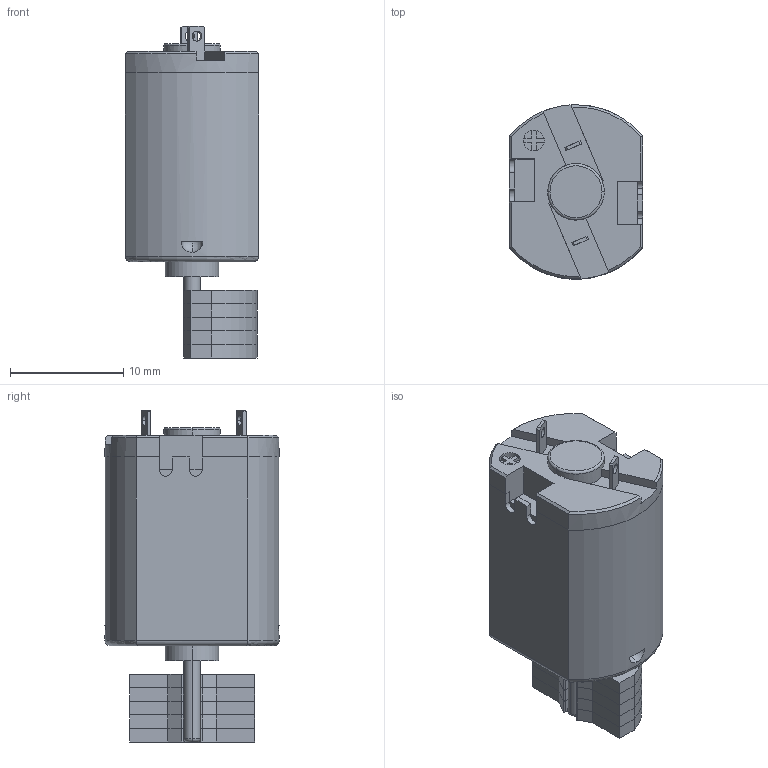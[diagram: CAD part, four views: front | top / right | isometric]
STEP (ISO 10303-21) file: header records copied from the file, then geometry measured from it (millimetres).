
FILE_DESCRIPTION (( 'STEP AP203' ), '1' );
FILE_NAME ('030淥雄鎮湛-3D.STEP', '2024-08-07T08:54:38', ( 'amidn' ), ( '' ), 'SwSTEP 2.0', 'SolidWorks 2014', '' );
FILE_SCHEMA (( 'CONFIG_CONTROL_DESIGN' ));
Length unit declared in the file: millimetre
Products named in the file (8): 粣創; ぇ陑謫; 傷裔; ぇ陑謫-; 030淥雄鎮湛-3D; 傷赽; 儂褲; 粣皉
Assembly tree (12 placements, depth 3):
  030淥雄鎮湛-3D
    儂褲
    粣創
    傷裔
    粣皉
    傷赽  x2
    ぇ陑謫-
      ぇ陑謫  x5
Bounding box: 11.8 x 15.4 x 29.35 mm (x, y, z)
Volume: 1523 mm3; surface area: 3308.7 mm2
Topology: 11 solids, 11 shells, 242 faces, 622 edges, 406 vertices
Faces by surface type: plane 150, cylinder 64, cone 12, sphere 8, torus 8
Entity records: 6492 total; most frequent: CARTESIAN_POINT 1056, DIRECTION 978, ORIENTED_EDGE 908, EDGE_CURVE 454, AXIS2_PLACEMENT_3D 352, VERTEX_POINT 294, VECTOR 274, LINE 274
